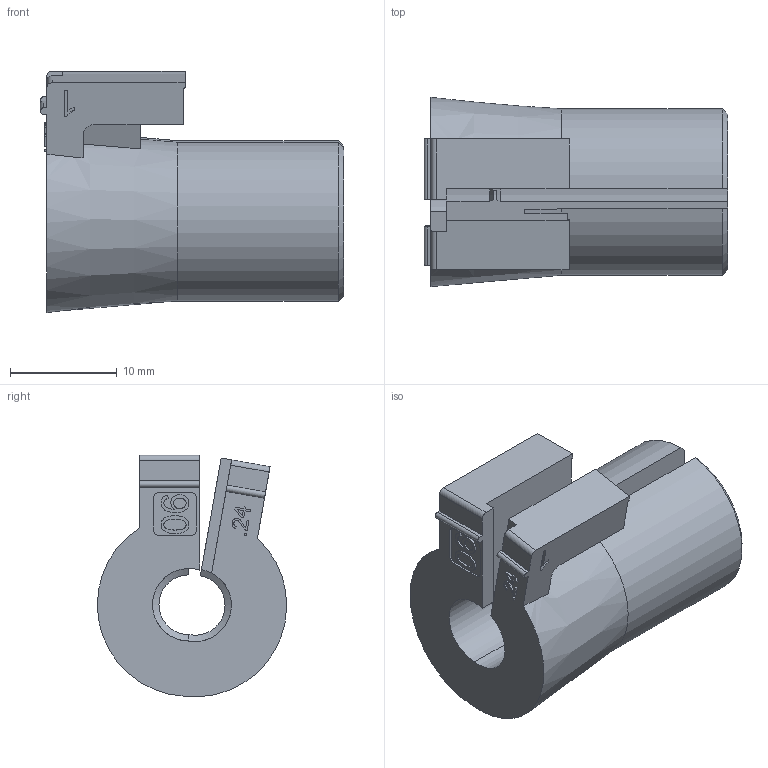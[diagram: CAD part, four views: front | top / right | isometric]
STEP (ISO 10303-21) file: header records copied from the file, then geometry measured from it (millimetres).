
FILE_DESCRIPTION(/* description */ (''),/* implementation_level */ '2;1');
FILE_NAME(/* name */ 'C:\SapWorkDir\Inventor\MP1\ConvertTempPath\87_12_121349_00_A_220530_KDT-X 06.stp',/* time_stamp */ '2022-05-31T09:23:48+02:00',/* author */ ('BAUER'),/* organization */ (''),/* preprocessor_version */ 'ST-DEVELOPER v16.13',/* originating_system */ 'Autodesk Inventor 2018',/* authorisation */ '');
FILE_SCHEMA (('AUTOMOTIVE_DESIGN { 1 0 10303 214 3 1 1 }'));
Length unit declared in the file: millimetre
Products named in the file (1): 121349
Bounding box: 28.4 x 17.73 x 22.61 mm (x, y, z)
Volume: 4790.6 mm3; surface area: 3047.8 mm2
Topology: 1 solids, 1 shells, 141 faces, 381 edges, 252 vertices
Faces by surface type: plane 77, bspline 36, cylinder 20, cone 8
Entity records: 4677 total; most frequent: CARTESIAN_POINT 1246, ORIENTED_EDGE 762, DIRECTION 568, EDGE_CURVE 381, VERTEX_POINT 252, LINE 248, VECTOR 248, AXIS2_PLACEMENT_3D 160
